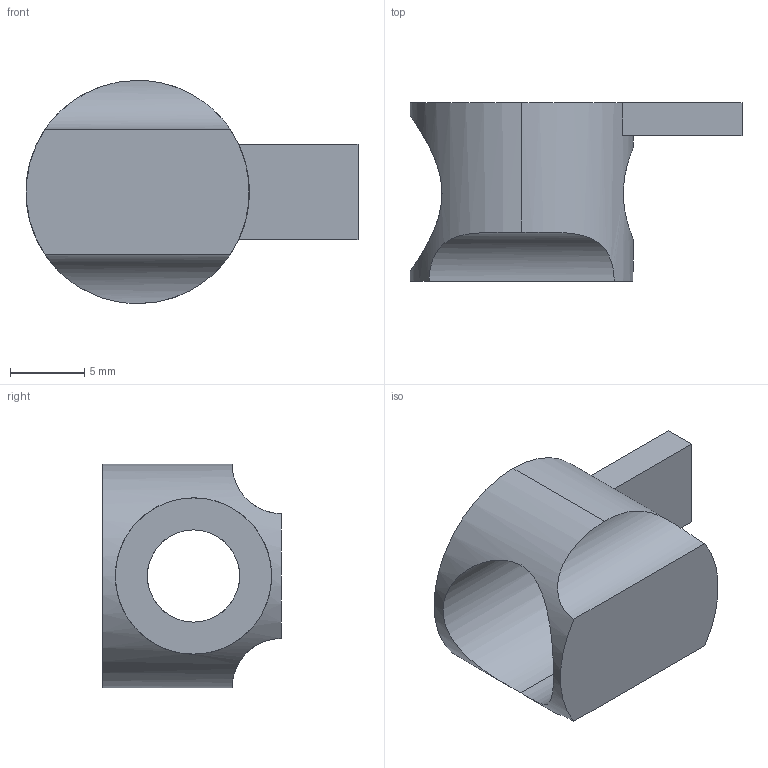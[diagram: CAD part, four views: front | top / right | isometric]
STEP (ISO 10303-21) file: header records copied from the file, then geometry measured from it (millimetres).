
FILE_DESCRIPTION (( 'STEP AP203' ), '1' );
FILE_NAME ('DUJ306-G.STEP', '2018-06-07T01:16:00', ( '' ), ( '' ), 'SwSTEP 2.0', 'SolidWorks 2012', '' );
FILE_SCHEMA (( 'CONFIG_CONTROL_DESIGN' ));
Length unit declared in the file: millimetre
Products named in the file (1): DUJ306-G
Bounding box: 22.3 x 12 x 15 mm (x, y, z)
Volume: 1175.7 mm3; surface area: 1316.2 mm2
Topology: 1 solids, 1 shells, 19 faces, 48 edges, 32 vertices
Faces by surface type: plane 11, cylinder 8
Entity records: 882 total; most frequent: CARTESIAN_POINT 344, ORIENTED_EDGE 96, DIRECTION 91, EDGE_CURVE 48, VERTEX_POINT 32, AXIS2_PLACEMENT_3D 31, VECTOR 29, LINE 29
